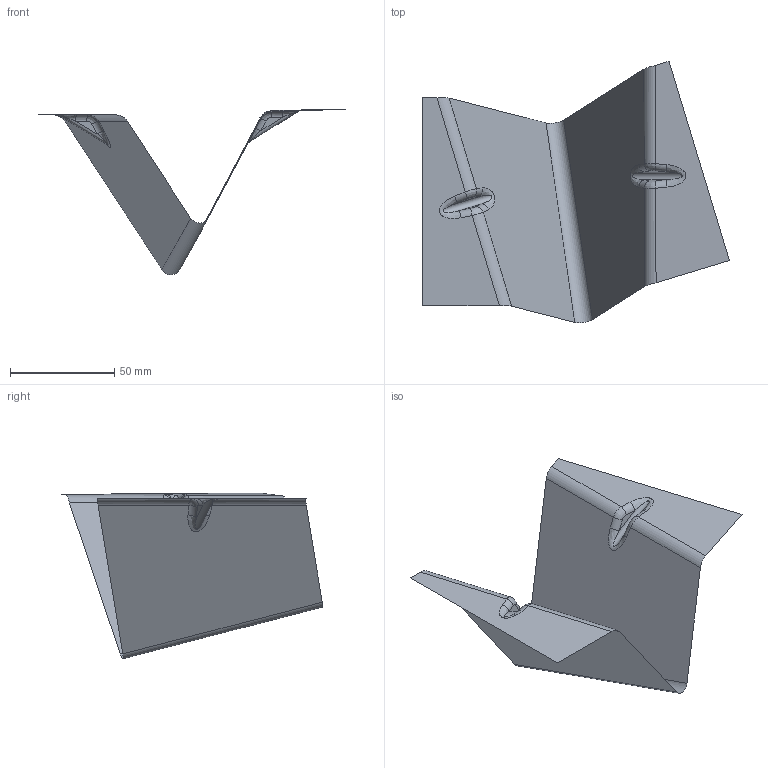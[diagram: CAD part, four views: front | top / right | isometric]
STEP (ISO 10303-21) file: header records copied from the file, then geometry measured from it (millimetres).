
FILE_DESCRIPTION(('CATIA V5 STEP Exchange'),'2;1');
FILE_NAME('C:\_Andres\UNIVERSIDAD\IQS\ASIGNATURAS\DAO\EXF\EXF-16172c\2inicio\Bosch_Dalmau_Ej03_v5.stp','2017-03-05T19:32:04+00:00',('none'),('none'),'CATIA Version 5-6 Release 2014 SP1 HF18','CATIA V5 STEP AP203','none');
FILE_SCHEMA(('CONFIG_CONTROL_DESIGN'));
Length unit declared in the file: millimetre
Products named in the file (1): Bosch_Dalmau_Ej03_v5
Bounding box: 147.47 x 125.54 x 79.6 mm (x, y, z)
Surface area: 21251.1 mm2 (no closed solid volume)
Topology: 0 solids, 1 shells, 31 faces, 78 edges, 48 vertices
Faces by surface type: cylinder 15, plane 8, bspline 8
Entity records: 2353 total; most frequent: CARTESIAN_POINT 1680, ORIENTED_EDGE 140, DIRECTION 90, EDGE_CURVE 78, VERTEX_POINT 48, VECTOR 40, LINE 40, ADVANCED_FACE 31
